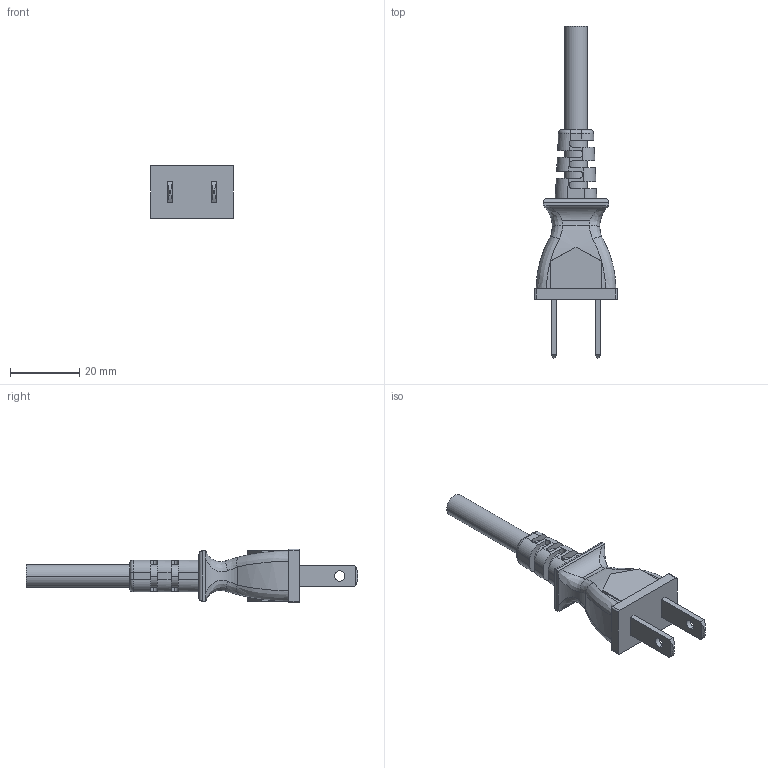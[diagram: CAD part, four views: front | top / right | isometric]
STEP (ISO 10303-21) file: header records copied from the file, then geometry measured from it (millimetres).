
FILE_DESCRIPTION (( 'STEP AP214' ), '1' );
FILE_NAME ('コンセントプラグ.STEP', '2024-06-18T01:41:34', ( '' ), ( '' ), 'SwSTEP 2.0', 'SolidWorks 2023', '' );
FILE_SCHEMA (( 'AUTOMOTIVE_DESIGN' ));
Length unit declared in the file: millimetre
Products named in the file (1): コンセントプラグ
Bounding box: 24 x 96 x 15.5 mm (x, y, z)
Volume: 9731.3 mm3; surface area: 5118.3 mm2
Topology: 1 solids, 1 shells, 141 faces, 413 edges, 270 vertices
Faces by surface type: cylinder 64, plane 61, bspline 16
Entity records: 5708 total; most frequent: CARTESIAN_POINT 2185, ORIENTED_EDGE 826, DIRECTION 633, EDGE_CURVE 413, VERTEX_POINT 270, AXIS2_PLACEMENT_3D 216, LINE 201, VECTOR 201
